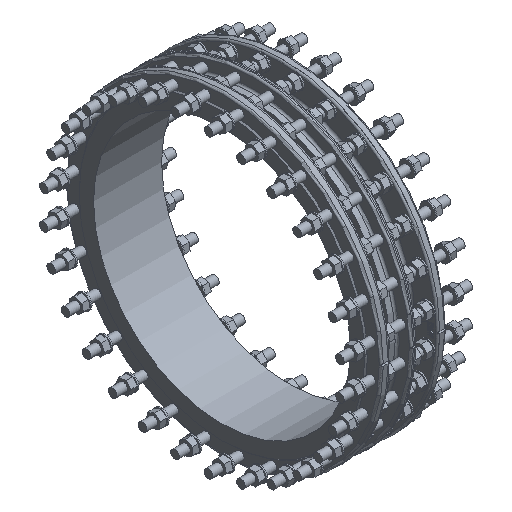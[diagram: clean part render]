
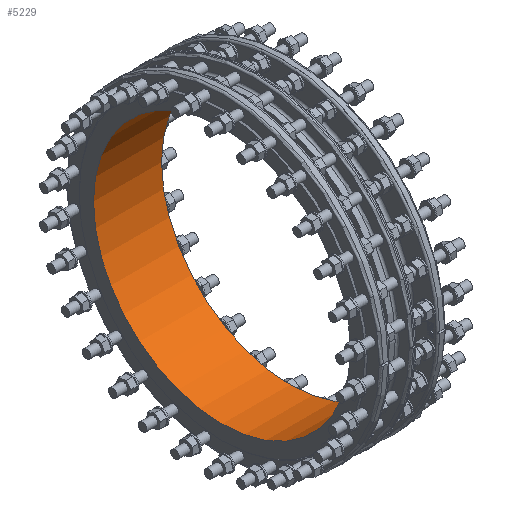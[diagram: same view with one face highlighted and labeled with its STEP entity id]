
A CAD part, isometric view. The second image highlights one B-rep face of the part: STEP entity #5229.
In plain terms, the highlighted cylindrical face has radius 500 mm (diameter 1000 mm), a full revolution.
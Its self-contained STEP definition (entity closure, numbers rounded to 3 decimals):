
#5229 = ADVANCED_FACE ( 'NONE', ( #6702, #21772 ), #29424, .F. ) ;
#6156 = ORIENTED_EDGE ( 'NONE', *, *, #19958, .F. ) ;
#6702 = FACE_OUTER_BOUND ( 'NONE', #18437, .T. ) ;
#6888 = CIRCLE ( 'NONE', #36066, 500. ) ;
#6933 = CARTESIAN_POINT ( 'NONE',  ( -24., 0., -500. ) ) ;
#10143 = AXIS2_PLACEMENT_3D ( 'NONE', #29972, #45048, #15109 ) ;
#10233 = EDGE_LOOP ( 'NONE', ( #6156 ) ) ;
#10644 = DIRECTION ( 'NONE',  ( -1., 0., 0. ) ) ;
#13250 = VERTEX_POINT ( 'NONE', #47112 ) ;
#14137 = DIRECTION ( 'NONE',  ( 0., 0., 1. ) ) ;
#15109 = DIRECTION ( 'NONE',  ( 0., 0., -1. ) ) ;
#17251 = CIRCLE ( 'NONE', #10143, 500. ) ;
#18437 = EDGE_LOOP ( 'NONE', ( #18663 ) ) ;
#18663 = ORIENTED_EDGE ( 'NONE', *, *, #34833, .F. ) ;
#19958 = EDGE_CURVE ( 'NONE', #29900, #29900, #17251, .T. ) ;
#21772 = FACE_OUTER_BOUND ( 'NONE', #10233, .T. ) ;
#22917 = CARTESIAN_POINT ( 'NONE',  ( 241., 0., 0. ) ) ;
#22951 = AXIS2_PLACEMENT_3D ( 'NONE', #44509, #10644, #38528 ) ;
#29424 = CYLINDRICAL_SURFACE ( 'NONE', #22951, 500. ) ;
#29900 = VERTEX_POINT ( 'NONE', #6933 ) ;
#29972 = CARTESIAN_POINT ( 'NONE',  ( -24., 0., 0. ) ) ;
#34833 = EDGE_CURVE ( 'NONE', #13250, #13250, #6888, .T. ) ;
#36066 = AXIS2_PLACEMENT_3D ( 'NONE', #22917, #48017, #14137 ) ;
#38528 = DIRECTION ( 'NONE',  ( 0., 0., 1. ) ) ;
#44509 = CARTESIAN_POINT ( 'NONE',  ( 0., 0., 0. ) ) ;
#45048 = DIRECTION ( 'NONE',  ( 1., 0., 0. ) ) ;
#47112 = CARTESIAN_POINT ( 'NONE',  ( 241., 0., 500. ) ) ;
#48017 = DIRECTION ( 'NONE',  ( -1., 0., 0. ) ) ;
